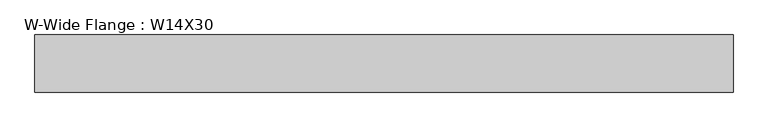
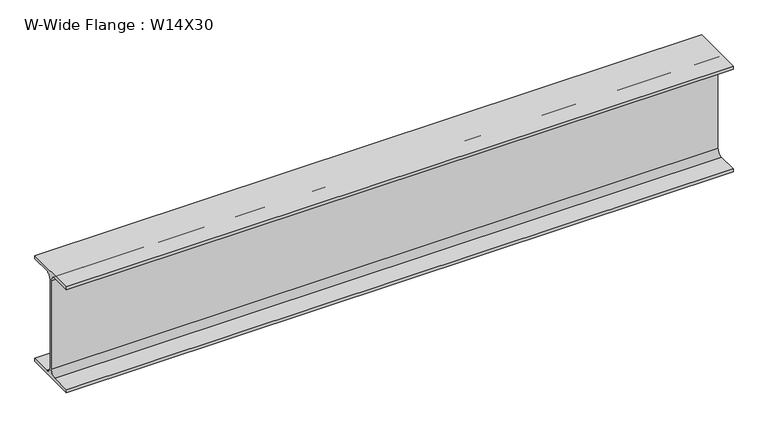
"""IFC4 building model written with IfcOpenShell, lengths in millimetres: beam geometry, W-Wide Flange : W14X30."""

from ifc_helpers import new_model, si_unit, point, frame, frame_2d, origin, place, context, project, spatial, polyline, circle_curve, trimmed, segment, composite_curve, outline, extrude, source, transform, mapped, element, save


def w_wide_flange_w14x30_5bdec823(model_context):
    return source(origin(), model_context, "Body", "SweptSolid", [
        extrude(outline(composite_curve([segment(polyline([(85.471, -165.481), (85.471, -175.26), (-85.471, -175.26), (-85.471, -165.481), (-22.225, -165.481)]), True, "CONTINUOUS"), segment(trimmed(circle_curve(frame_2d((-22.225, -146.685)), 18.796), [point((-22.225, -165.481))], [point((-3.429, -146.685))], True, "CARTESIAN"), True, "CONTINUOUS"), segment(polyline([(-3.429, -146.685), (-3.429, 146.685)]), True, "CONTINUOUS"), segment(trimmed(circle_curve(frame_2d((-22.225, 146.685)), 18.796), [point((-3.429, 146.685))], [point((-22.225, 165.481))], True, "CARTESIAN"), True, "CONTINUOUS"), segment(polyline([(-22.225, 165.481), (-85.471, 165.481), (-85.471, 175.26), (85.471, 175.26), (85.471, 165.481), (22.225, 165.481)]), True, "CONTINUOUS"), segment(trimmed(circle_curve(frame_2d((22.225, 146.685)), 18.796), [point((22.225, 165.481))], [point((3.429, 146.685))], True, "CARTESIAN"), True, "CONTINUOUS"), segment(polyline([(3.429, 146.685), (3.429, -146.685)]), True, "CONTINUOUS"), segment(trimmed(circle_curve(frame_2d((22.225, -146.685)), 18.796), [point((3.429, -146.685))], [point((22.225, -165.481))], True, "CARTESIAN"), True, "CONTINUOUS"), segment(polyline([(22.225, -165.481), (85.471, -165.481)]), True, "CONTINUOUS")], self_intersect=False)), frame((-1045.1225149, 0.0, 0.0), z_axis=(1.0, 0.0, 0.0), x_axis=(0.0, 1.0, 0.0)), (0.0, 0.0, 1.0), 2090.2450297),
    ])


if __name__ == "__main__":
    model = new_model("IFC4")
    model_context = context("Model", 3, world=origin())
    ifc_project = project(units=[si_unit("LENGTHUNIT", "METRE", prefix="MILLI")], contexts=[model_context])
    site = spatial("IfcSite", under=ifc_project)
    building = spatial("IfcBuilding", under=site)
    placement = place(None, origin())
    w_wide_flange_w14x30_shape = w_wide_flange_w14x30_5bdec823(model_context)
    element("IfcBeam", 1, ObjectType="W-Wide Flange : W14X30", at=placement, inside=building, context=model_context, shape_type="MappedRepresentation", body=[
        mapped(w_wide_flange_w14x30_shape, transform((0.0, 0.0, 0.0), x_axis=(1.0, 0.0, 0.0), y_axis=(0.0, 1.0, 0.0), z_axis=(0.0, 0.0, 1.0))),
    ])
    save(model, "model.ifc")
